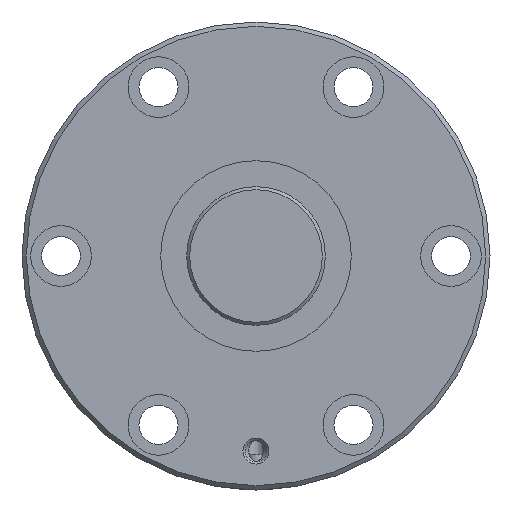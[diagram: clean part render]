
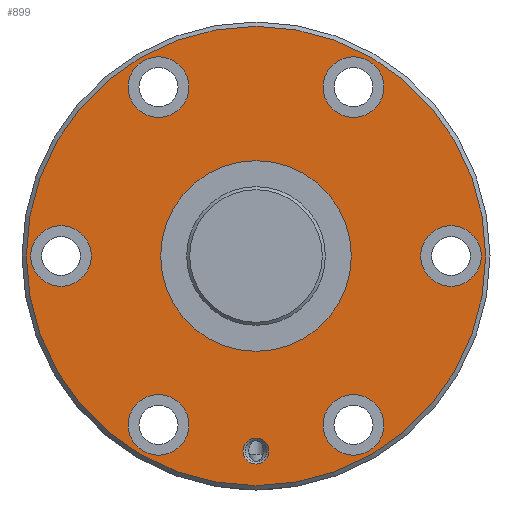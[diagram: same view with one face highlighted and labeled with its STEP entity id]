
A CAD part, left-side view. The second image highlights one B-rep face of the part: STEP entity #899.
In plain terms, the highlighted planar face has unit normal (-1, 0, 0).
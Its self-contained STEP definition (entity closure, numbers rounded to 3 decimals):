
#147=ORIENTED_EDGE('',*,*,#340,.T.);
#148=ORIENTED_EDGE('',*,*,#341,.T.);
#149=ORIENTED_EDGE('',*,*,#342,.T.);
#150=ORIENTED_EDGE('',*,*,#343,.T.);
#151=ORIENTED_EDGE('',*,*,#344,.T.);
#152=ORIENTED_EDGE('',*,*,#345,.T.);
#153=ORIENTED_EDGE('',*,*,#346,.T.);
#154=ORIENTED_EDGE('',*,*,#347,.T.);
#155=ORIENTED_EDGE('',*,*,#339,.F.);
#339=EDGE_CURVE('',#439,#439,#522,.T.);
#340=EDGE_CURVE('',#440,#440,#523,.T.);
#341=EDGE_CURVE('',#441,#441,#524,.F.);
#342=EDGE_CURVE('',#442,#442,#525,.T.);
#343=EDGE_CURVE('',#443,#443,#526,.T.);
#344=EDGE_CURVE('',#444,#444,#527,.T.);
#345=EDGE_CURVE('',#445,#445,#528,.T.);
#346=EDGE_CURVE('',#446,#446,#529,.T.);
#347=EDGE_CURVE('',#447,#447,#530,.T.);
#439=VERTEX_POINT('',#1510);
#440=VERTEX_POINT('',#1513);
#441=VERTEX_POINT('',#1515);
#442=VERTEX_POINT('',#1517);
#443=VERTEX_POINT('',#1519);
#444=VERTEX_POINT('',#1521);
#445=VERTEX_POINT('',#1523);
#446=VERTEX_POINT('',#1525);
#447=VERTEX_POINT('',#1527);
#522=CIRCLE('',#1005,53.);
#523=CIRCLE('',#1007,22.);
#524=CIRCLE('',#1008,7.);
#525=CIRCLE('',#1009,3.);
#526=CIRCLE('',#1010,7.);
#527=CIRCLE('',#1011,7.);
#528=CIRCLE('',#1012,7.);
#529=CIRCLE('',#1013,7.);
#530=CIRCLE('',#1014,7.);
#602=EDGE_LOOP('',(#147));
#603=EDGE_LOOP('',(#148));
#604=EDGE_LOOP('',(#149));
#605=EDGE_LOOP('',(#150));
#606=EDGE_LOOP('',(#151));
#607=EDGE_LOOP('',(#152));
#608=EDGE_LOOP('',(#153));
#609=EDGE_LOOP('',(#154));
#610=EDGE_LOOP('',(#155));
#742=FACE_BOUND('',#602,.T.);
#743=FACE_BOUND('',#603,.T.);
#744=FACE_BOUND('',#604,.T.);
#745=FACE_BOUND('',#605,.T.);
#746=FACE_BOUND('',#606,.T.);
#747=FACE_BOUND('',#607,.T.);
#748=FACE_BOUND('',#608,.T.);
#749=FACE_BOUND('',#609,.T.);
#750=FACE_BOUND('',#610,.T.);
#864=PLANE('',#1006);
#899=ADVANCED_FACE('',(#742,#743,#744,#745,#746,#747,#748,#749,#750),#864,
 .T.);
#1005=AXIS2_PLACEMENT_3D('',#1509,#1171,#1172);
#1006=AXIS2_PLACEMENT_3D('',#1511,#1173,#1174);
#1007=AXIS2_PLACEMENT_3D('',#1512,#1175,#1176);
#1008=AXIS2_PLACEMENT_3D('',#1514,#1177,#1178);
#1009=AXIS2_PLACEMENT_3D('',#1516,#1179,#1180);
#1010=AXIS2_PLACEMENT_3D('',#1518,#1181,#1182);
#1011=AXIS2_PLACEMENT_3D('',#1520,#1183,#1184);
#1012=AXIS2_PLACEMENT_3D('',#1522,#1185,#1186);
#1013=AXIS2_PLACEMENT_3D('',#1524,#1187,#1188);
#1014=AXIS2_PLACEMENT_3D('',#1526,#1189,#1190);
#1171=DIRECTION('',(1.,0.,0.));
#1172=DIRECTION('',(0.,0.,-1.));
#1173=DIRECTION('',(-1.,0.,0.));
#1174=DIRECTION('',(0.,0.,1.));
#1175=DIRECTION('',(1.,0.,0.));
#1176=DIRECTION('',(0.,0.,-1.));
#1177=DIRECTION('',(-1.,0.,0.));
#1178=DIRECTION('',(0.,0.,1.));
#1179=DIRECTION('',(1.,0.,0.));
#1180=DIRECTION('',(0.,0.,-1.));
#1181=DIRECTION('',(1.,0.,0.));
#1182=DIRECTION('',(0.,0.,-1.));
#1183=DIRECTION('',(1.,0.,0.));
#1184=DIRECTION('',(0.,0.,-1.));
#1185=DIRECTION('',(1.,0.,0.));
#1186=DIRECTION('',(0.,0.,-1.));
#1187=DIRECTION('',(1.,0.,0.));
#1188=DIRECTION('',(0.,0.,-1.));
#1189=DIRECTION('',(1.,0.,0.));
#1190=DIRECTION('',(0.,0.,-1.));
#1509=CARTESIAN_POINT('',(0.,0.,0.));
#1510=CARTESIAN_POINT('',(0.,0.,-53.));
#1511=CARTESIAN_POINT('',(0.,53.,0.));
#1512=CARTESIAN_POINT('',(0.,0.,0.));
#1513=CARTESIAN_POINT('',(0.,0.,-22.));
#1514=CARTESIAN_POINT('',(0.,45.,0.));
#1515=CARTESIAN_POINT('',(0.,45.,7.));
#1516=CARTESIAN_POINT('',(0.,0.,-45.));
#1517=CARTESIAN_POINT('',(0.,0.,-48.));
#1518=CARTESIAN_POINT('',(0.,-45.,0.));
#1519=CARTESIAN_POINT('',(0.,-45.,-7.));
#1520=CARTESIAN_POINT('',(0.,22.5,38.971));
#1521=CARTESIAN_POINT('',(0.,22.5,31.971));
#1522=CARTESIAN_POINT('',(0.,-22.5,-38.971));
#1523=CARTESIAN_POINT('',(0.,-22.5,-45.971));
#1524=CARTESIAN_POINT('',(0.,-22.5,38.971));
#1525=CARTESIAN_POINT('',(0.,-22.5,31.971));
#1526=CARTESIAN_POINT('',(0.,22.5,-38.971));
#1527=CARTESIAN_POINT('',(0.,22.5,-45.971));
